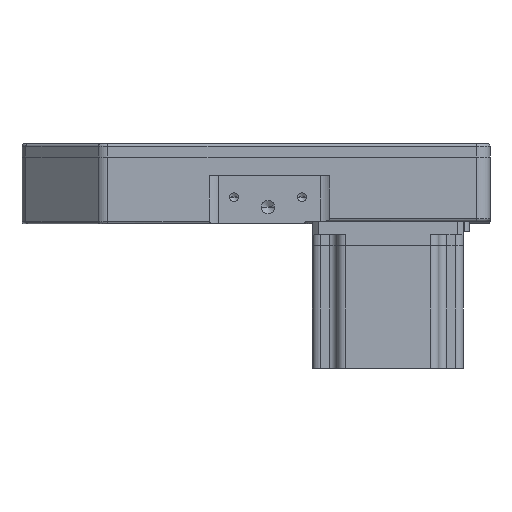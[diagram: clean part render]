
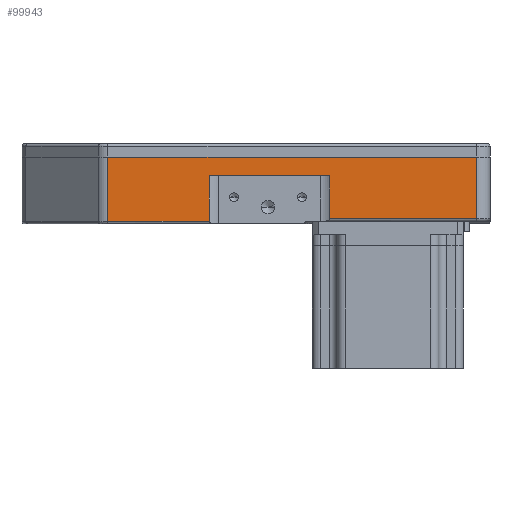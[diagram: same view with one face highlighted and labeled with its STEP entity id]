
A CAD part, front view. The second image highlights one B-rep face of the part: STEP entity #99943.
In plain terms, the highlighted planar face has unit normal (0, -1, 0) as drawn and (0, 0, 1) by its records, which use the part's own axes.
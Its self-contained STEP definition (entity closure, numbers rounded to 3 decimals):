
#1394 = ORIENTED_EDGE ( 'NONE', *, *, #22590, .F. ) ;
#2506 = CARTESIAN_POINT ( 'NONE',  ( 49., 2., 66. ) ) ;
#2561 = EDGE_CURVE ( 'NONE', #69325, #63723, #62077, .T. ) ;
#3067 = VECTOR ( 'NONE', #53850, 1000. ) ;
#3084 = CARTESIAN_POINT ( 'NONE',  ( 4., 18., 66. ) ) ;
#3532 = VECTOR ( 'NONE', #90367, 1000. ) ;
#6866 = VECTOR ( 'NONE', #87155, 1000. ) ;
#7699 = CARTESIAN_POINT ( 'NONE',  ( -33.929, 0., 66. ) ) ;
#8982 = DIRECTION ( 'NONE',  ( 1., 0., 0. ) ) ;
#9360 = DIRECTION ( 'NONE',  ( 1., 0., 0. ) ) ;
#10176 = VECTOR ( 'NONE', #9360, 1000. ) ;
#15301 = CARTESIAN_POINT ( 'NONE',  ( 104., 25., 66. ) ) ;
#15481 = CARTESIAN_POINT ( 'NONE',  ( 4., 18., 66. ) ) ;
#18116 = CARTESIAN_POINT ( 'NONE',  ( 104., 2., 66. ) ) ;
#20061 = LINE ( 'NONE', #27920, #92140 ) ;
#20427 = CARTESIAN_POINT ( 'NONE',  ( -66., 25., 66. ) ) ;
#22094 = VERTEX_POINT ( 'NONE', #81363 ) ;
#22590 = EDGE_CURVE ( 'NONE', #72286, #48458, #110239, .T. ) ;
#25936 = VERTEX_POINT ( 'NONE', #54138 ) ;
#26568 = VECTOR ( 'NONE', #72197, 1000. ) ;
#27920 = CARTESIAN_POINT ( 'NONE',  ( 4., 1., 66. ) ) ;
#28218 = EDGE_CURVE ( 'NONE', #25936, #48458, #83446, .T. ) ;
#34643 = CARTESIAN_POINT ( 'NONE',  ( 4., 1., 66. ) ) ;
#36393 = LINE ( 'NONE', #7699, #6866 ) ;
#36718 = ORIENTED_EDGE ( 'NONE', *, *, #54161, .F. ) ;
#36975 = VERTEX_POINT ( 'NONE', #122318 ) ;
#45316 = PLANE ( 'NONE',  #115154 ) ;
#48285 = ORIENTED_EDGE ( 'NONE', *, *, #126351, .T. ) ;
#48458 = VERTEX_POINT ( 'NONE', #15301 ) ;
#48568 = CARTESIAN_POINT ( 'NONE',  ( 49., 18., 66. ) ) ;
#49391 = ORIENTED_EDGE ( 'NONE', *, *, #97730, .T. ) ;
#53850 = DIRECTION ( 'NONE',  ( 0., -1., 0. ) ) ;
#54138 = CARTESIAN_POINT ( 'NONE',  ( 104., 2., 66. ) ) ;
#54161 = EDGE_CURVE ( 'NONE', #63723, #36975, #62420, .T. ) ;
#55112 = FACE_OUTER_BOUND ( 'NONE', #113473, .T. ) ;
#62077 = LINE ( 'NONE', #88973, #115118 ) ;
#62420 = LINE ( 'NONE', #15481, #26568 ) ;
#63723 = VERTEX_POINT ( 'NONE', #48568 ) ;
#63858 = DIRECTION ( 'NONE',  ( 0., 1., 0. ) ) ;
#69325 = VERTEX_POINT ( 'NONE', #2506 ) ;
#72197 = DIRECTION ( 'NONE',  ( -1., 0., 0. ) ) ;
#72286 = VERTEX_POINT ( 'NONE', #90547 ) ;
#72512 = DIRECTION ( 'NONE',  ( 0., 1., 0. ) ) ;
#74651 = CARTESIAN_POINT ( 'NONE',  ( -66., 25., 66. ) ) ;
#81363 = CARTESIAN_POINT ( 'NONE',  ( -33.929, 1., 66. ) ) ;
#83186 = ORIENTED_EDGE ( 'NONE', *, *, #87813, .T. ) ;
#83446 = LINE ( 'NONE', #123128, #123637 ) ;
#87155 = DIRECTION ( 'NONE',  ( 0., -1., 0. ) ) ;
#87813 = EDGE_CURVE ( 'NONE', #22094, #118663, #20061, .T. ) ;
#88973 = CARTESIAN_POINT ( 'NONE',  ( 49., 18., 66. ) ) ;
#90367 = DIRECTION ( 'NONE',  ( 1., 0., 0. ) ) ;
#90547 = CARTESIAN_POINT ( 'NONE',  ( -33.929, 25., 66. ) ) ;
#92140 = VECTOR ( 'NONE', #8982, 1000. ) ;
#93331 = ORIENTED_EDGE ( 'NONE', *, *, #28218, .T. ) ;
#94985 = ORIENTED_EDGE ( 'NONE', *, *, #2561, .F. ) ;
#96101 = DIRECTION ( 'NONE',  ( 0., 0., -1. ) ) ;
#97730 = EDGE_CURVE ( 'NONE', #72286, #22094, #36393, .T. ) ;
#99943 = ADVANCED_FACE ( 'NONE', ( #55112 ), #45316, .F. ) ;
#100909 = EDGE_CURVE ( 'NONE', #36975, #118663, #122861, .T. ) ;
#110239 = LINE ( 'NONE', #20427, #10176 ) ;
#111954 = ORIENTED_EDGE ( 'NONE', *, *, #100909, .F. ) ;
#113473 = EDGE_LOOP ( 'NONE', ( #94985, #48285, #93331, #1394, #49391, #83186, #111954, #36718 ) ) ;
#115118 = VECTOR ( 'NONE', #72512, 1000. ) ;
#115154 = AXIS2_PLACEMENT_3D ( 'NONE', #74651, #96101, #126032 ) ;
#117092 = LINE ( 'NONE', #18116, #3532 ) ;
#118663 = VERTEX_POINT ( 'NONE', #34643 ) ;
#122318 = CARTESIAN_POINT ( 'NONE',  ( 4., 18., 66. ) ) ;
#122861 = LINE ( 'NONE', #3084, #3067 ) ;
#123128 = CARTESIAN_POINT ( 'NONE',  ( 104., 25., 66. ) ) ;
#123637 = VECTOR ( 'NONE', #63858, 1000. ) ;
#126032 = DIRECTION ( 'NONE',  ( -1., 0., 0. ) ) ;
#126351 = EDGE_CURVE ( 'NONE', #69325, #25936, #117092, .T. ) ;
